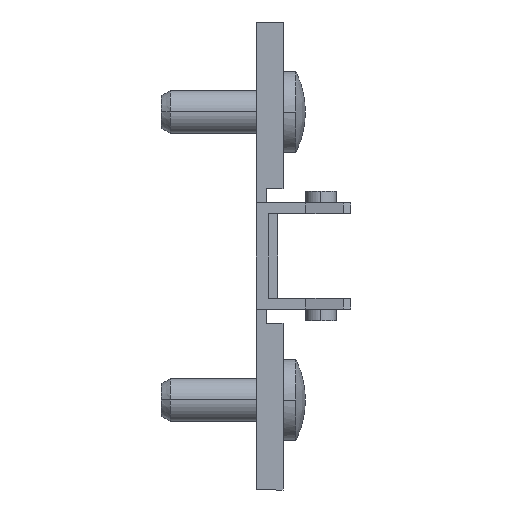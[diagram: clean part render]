
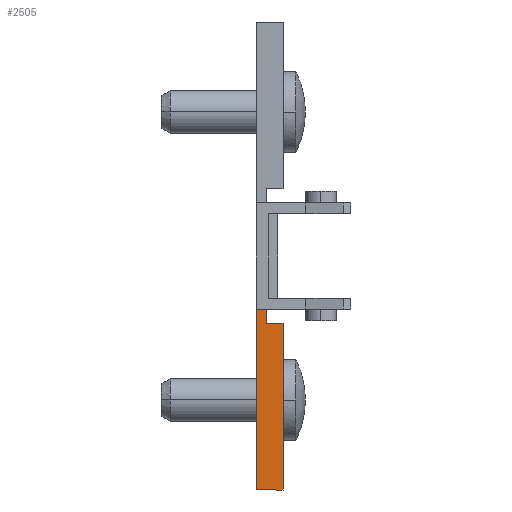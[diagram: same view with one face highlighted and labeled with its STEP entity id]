
A CAD part, front view. The second image highlights one B-rep face of the part: STEP entity #2505.
In plain terms, the highlighted planar face has unit normal (0, -1, 0).
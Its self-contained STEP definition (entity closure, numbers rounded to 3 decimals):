
#71 = EDGE_CURVE ( 'NONE', #1240, #1239, #535, .T. ) ;
#116 = EDGE_CURVE ( 'NONE', #1244, #1240, #484, .T. ) ;
#179 = EDGE_CURVE ( 'NONE', #1231, #1243, #899, .T. ) ;
#226 = EDGE_CURVE ( 'NONE', #1231, #1244, #938, .T. ) ;
#268 = AXIS2_PLACEMENT_3D ( 'NONE', #1969, #1963, #1962 ) ;
#357 = EDGE_CURVE ( 'NONE', #1238, #1243, #3262, .T. ) ;
#400 = EDGE_CURVE ( 'NONE', #1239, #1238, #3259, .T. ) ;
#481 = VECTOR ( 'NONE', #1128, 1000. ) ;
#484 = LINE ( 'NONE', #1124, #481 ) ;
#534 = VECTOR ( 'NONE', #1143, 1000. ) ;
#535 = LINE ( 'NONE', #1142, #534 ) ;
#776 = ORIENTED_EDGE ( 'NONE', *, *, #226, .T. ) ;
#777 = ORIENTED_EDGE ( 'NONE', *, *, #116, .T. ) ;
#778 = ORIENTED_EDGE ( 'NONE', *, *, #179, .F. ) ;
#779 = ORIENTED_EDGE ( 'NONE', *, *, #71, .T. ) ;
#780 = ORIENTED_EDGE ( 'NONE', *, *, #400, .T. ) ;
#783 = ORIENTED_EDGE ( 'NONE', *, *, #357, .T. ) ;
#899 = LINE ( 'NONE', #1504, #904 ) ;
#904 = VECTOR ( 'NONE', #1499, 1000. ) ;
#938 = LINE ( 'NONE', #2323, #956 ) ;
#956 = VECTOR ( 'NONE', #1538, 1000. ) ;
#1124 = CARTESIAN_POINT ( 'NONE',  ( 3., -9., -26. ) ) ;
#1128 = DIRECTION ( 'NONE',  ( 1., 0., 0. ) ) ;
#1142 = CARTESIAN_POINT ( 'NONE',  ( 3., -9., -7.5 ) ) ;
#1143 = DIRECTION ( 'NONE',  ( 0., 0., 1. ) ) ;
#1231 = VERTEX_POINT ( 'NONE', #2147 ) ;
#1238 = VERTEX_POINT ( 'NONE', #2144 ) ;
#1239 = VERTEX_POINT ( 'NONE', #2145 ) ;
#1240 = VERTEX_POINT ( 'NONE', #2146 ) ;
#1243 = VERTEX_POINT ( 'NONE', #2139 ) ;
#1244 = VERTEX_POINT ( 'NONE', #2140 ) ;
#1499 = DIRECTION ( 'NONE',  ( 1., 0., 0. ) ) ;
#1504 = CARTESIAN_POINT ( 'NONE',  ( 1.2, -9., -5.9 ) ) ;
#1538 = DIRECTION ( 'NONE',  ( 0., 0., -1. ) ) ;
#1751 = CARTESIAN_POINT ( 'NONE',  ( 1.2, -9., -7.5 ) ) ;
#1752 = DIRECTION ( 'NONE',  ( -1., 0., 0. ) ) ;
#1812 = CARTESIAN_POINT ( 'NONE',  ( 1.2, -9., -5. ) ) ;
#1813 = DIRECTION ( 'NONE',  ( 0., 0., 1. ) ) ;
#1962 = DIRECTION ( 'NONE',  ( 0., 0., 1. ) ) ;
#1963 = DIRECTION ( 'NONE',  ( 0., 1., 0. ) ) ;
#1969 = CARTESIAN_POINT ( 'NONE',  ( 1.2, -9., -5. ) ) ;
#1972 = PLANE ( 'NONE',  #268 ) ;
#2139 = CARTESIAN_POINT ( 'NONE',  ( 1.2, -9., -5.9 ) ) ;
#2140 = CARTESIAN_POINT ( 'NONE',  ( 0., -9., -26. ) ) ;
#2144 = CARTESIAN_POINT ( 'NONE',  ( 1.2, -9., -7.5 ) ) ;
#2145 = CARTESIAN_POINT ( 'NONE',  ( 3., -9., -7.5 ) ) ;
#2146 = CARTESIAN_POINT ( 'NONE',  ( 3., -9., -26. ) ) ;
#2147 = CARTESIAN_POINT ( 'NONE',  ( 0., -9., -5.9 ) ) ;
#2323 = CARTESIAN_POINT ( 'NONE',  ( 0., -9., -26. ) ) ;
#2505 = ADVANCED_FACE ( 'NONE', ( #3173 ), #1972, .F. ) ;
#3000 = EDGE_LOOP ( 'NONE', ( #778, #776, #777, #779, #780, #783 ) ) ;
#3173 = FACE_OUTER_BOUND ( 'NONE', #3000, .T. ) ;
#3213 = VECTOR ( 'NONE', #1813, 1000. ) ;
#3259 = LINE ( 'NONE', #1751, #3260 ) ;
#3260 = VECTOR ( 'NONE', #1752, 1000. ) ;
#3262 = LINE ( 'NONE', #1812, #3213 ) ;
